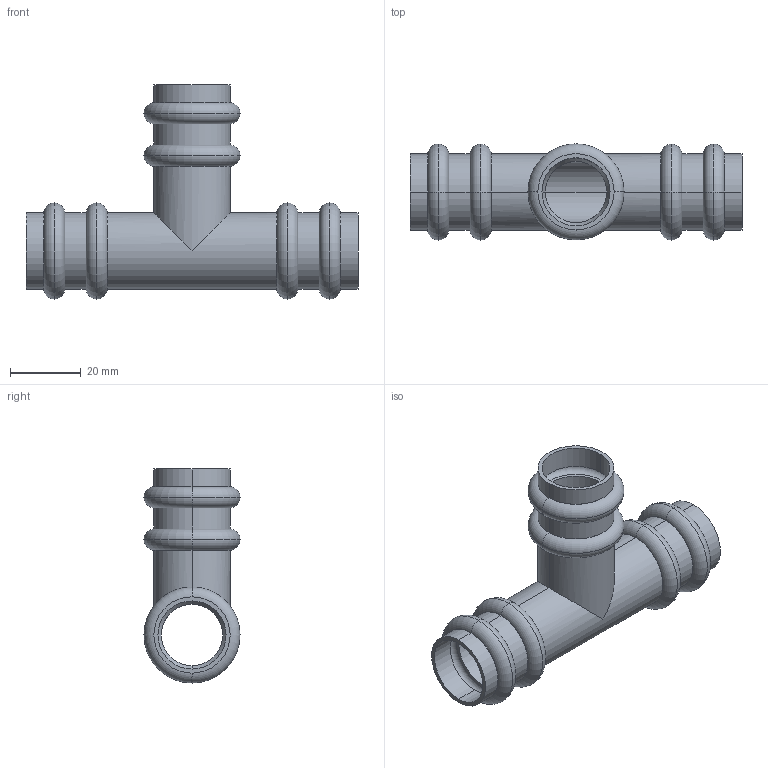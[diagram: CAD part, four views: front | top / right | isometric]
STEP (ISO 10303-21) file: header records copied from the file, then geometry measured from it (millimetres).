
FILE_DESCRIPTION(('starvars output'),'1');
FILE_NAME('cv20240422105004000011616.stp','10:50:04 2024/04/22',('Thomas Industrial Network Germany GmbH'),(' '),'Spatial InterOp 3D',' ',' ');
FILE_SCHEMA(('AUTOMOTIVE_DESIGN { 1 0 10303 214 3 1 1 }'));
Length unit declared in the file: millimetre
Products named in the file (1): 1
Bounding box: 94 x 27.2 x 60.6 mm (x, y, z)
Volume: 13856.6 mm3; surface area: 20599.3 mm2
Topology: 1 solids, 1 shells, 119 faces, 246 edges, 152 vertices
Faces by surface type: torus 48, cylinder 38, plane 27, cone 6
Entity records: 4216 total; most frequent: DIRECTION 686, CARTESIAN_POINT 518, ORIENTED_EDGE 492, AXIS2_PLACEMENT_3D 320, EDGE_CURVE 246, CIRCLE 192, VERTEX_POINT 152, EDGE_LOOP 146
